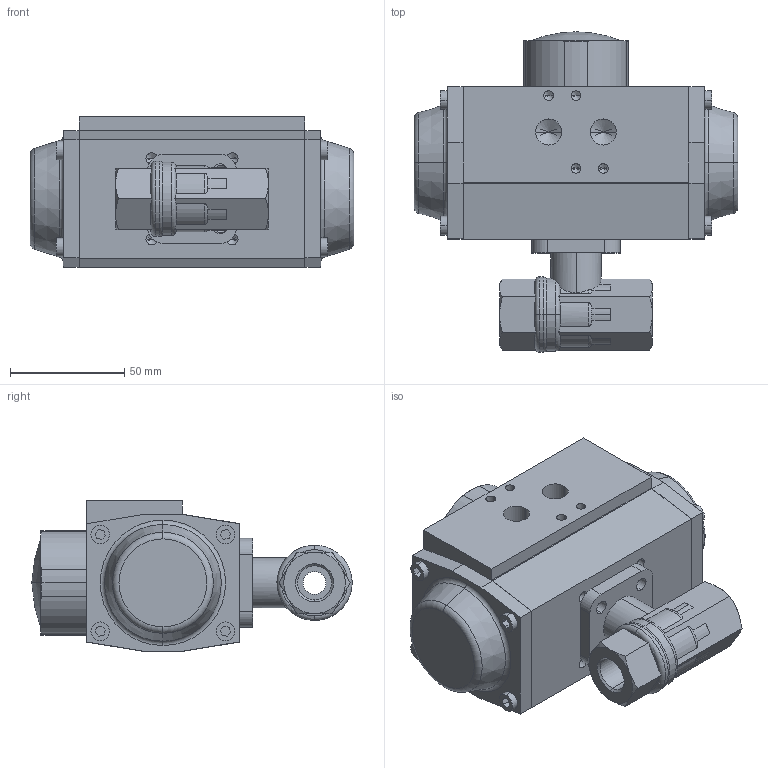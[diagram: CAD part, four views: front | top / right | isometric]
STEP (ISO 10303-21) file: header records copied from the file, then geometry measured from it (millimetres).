
FILE_DESCRIPTION (( 'STEP AP214' ), '1' );
FILE_NAME ('A25-DN10-G3_8+AP1.step', '2011-03-03T09:45:26', ( '' ), ( '' ), 'SwSTEP 2.0', 'SolidWorks 2011', '' );
FILE_SCHEMA (( 'AUTOMOTIVE_DESIGN' ));
Length unit declared in the file: millimetre
Products named in the file (3): AP1_Default<As Machined>; Ballvalve A25-DN10 G3_8; A25-DN10-G3_8+AP1
Assembly tree (2 placements, depth 2):
  A25-DN10-G3_8+AP1
    AP1_Default<As Machined>
    Ballvalve A25-DN10 G3_8
Bounding box: 142 x 140.49 x 66 mm (x, y, z)
Volume: 619649.5 mm3; surface area: 74739.1 mm2
Topology: 5 solids, 5 shells, 335 faces, 825 edges, 509 vertices
Faces by surface type: plane 154, cylinder 101, cone 56, torus 22, sphere 2
Entity records: 11035 total; most frequent: CARTESIAN_POINT 2157, DIRECTION 1662, ORIENTED_EDGE 1578, EDGE_CURVE 789, AXIS2_PLACEMENT_3D 602, VERTEX_POINT 509, VECTOR 458, LINE 458
